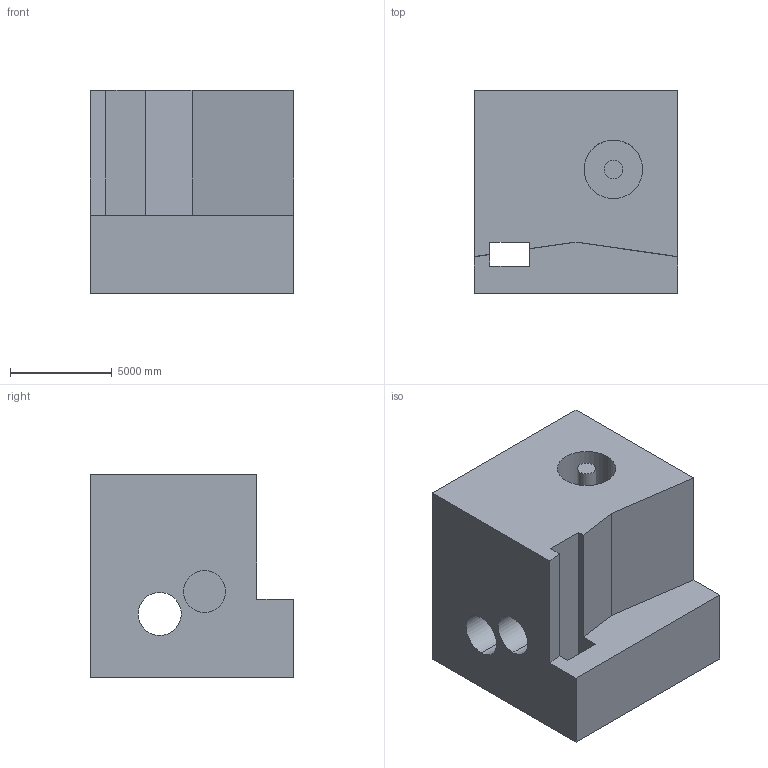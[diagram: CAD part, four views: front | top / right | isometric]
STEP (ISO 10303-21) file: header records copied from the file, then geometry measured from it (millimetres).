
FILE_DESCRIPTION (( 'STEP AP203' ), '1' );
FILE_NAME ('281.STEP', '2022-09-07T15:13:39', ( 'user' ), ( '' ), 'SwSTEP 2.0', 'SolidWorks 2021', '' );
FILE_SCHEMA (( 'CONFIG_CONTROL_DESIGN' ));
Length unit declared in the file: centimetre
Products named in the file (1): 281
Bounding box: 10000 x 10000 x 10000 mm (x, y, z)
Volume: 769234763384.9 mm3; surface area: 757634154.6 mm2
Topology: 1 solids, 1 shells, 25 faces, 63 edges, 42 vertices
Faces by surface type: plane 17, cylinder 8
Entity records: 838 total; most frequent: CARTESIAN_POINT 131, DIRECTION 131, ORIENTED_EDGE 126, EDGE_CURVE 63, LINE 47, VECTOR 47, VERTEX_POINT 42, AXIS2_PLACEMENT_3D 42
